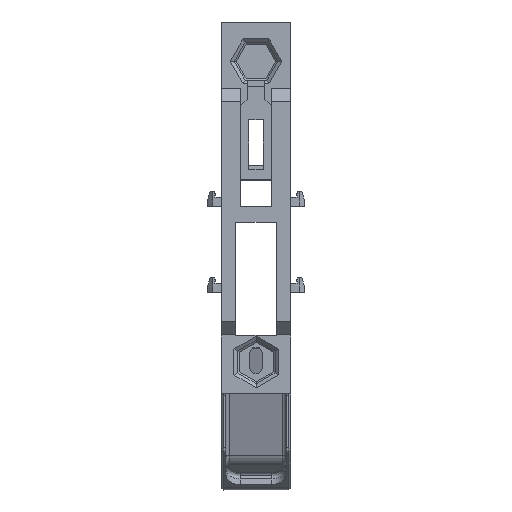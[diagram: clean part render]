
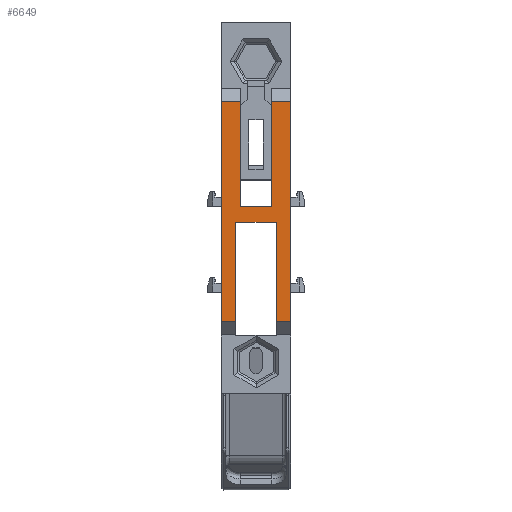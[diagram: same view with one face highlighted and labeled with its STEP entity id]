
A CAD part, top view. The second image highlights one B-rep face of the part: STEP entity #6649.
In plain terms, the highlighted planar face has unit normal (0, 0, 1).
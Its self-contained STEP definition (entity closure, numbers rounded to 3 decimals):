
#360=CARTESIAN_POINT('',(8.85,681.771,-13.196));
#361=VERTEX_POINT('',#360);
#368=CARTESIAN_POINT('',(8.85,741.341,-13.196));
#369=VERTEX_POINT('',#368);
#370=CARTESIAN_POINT('',(8.85,741.341,-13.196));
#371=DIRECTION('',(-0.,-1.,-0.));
#372=VECTOR('',#371,59.57);
#373=LINE('',#370,#372);
#374=EDGE_CURVE('',#369,#361,#373,.T.);
#617=CARTESIAN_POINT('',(-8.85,741.341,-13.196));
#618=VERTEX_POINT('',#617);
#625=CARTESIAN_POINT('',(-8.85,681.771,-13.196));
#626=VERTEX_POINT('',#625);
#627=CARTESIAN_POINT('',(-8.85,681.771,-13.196));
#628=DIRECTION('',(0.,1.,0.));
#629=VECTOR('',#628,59.57);
#630=LINE('',#627,#629);
#631=EDGE_CURVE('',#626,#618,#630,.T.);
#6536=CARTESIAN_POINT('',(19.6,741.341,-13.196));
#6537=VERTEX_POINT('',#6536);
#6538=CARTESIAN_POINT('',(19.6,741.341,-13.196));
#6539=DIRECTION('',(-1.,-0.,0.));
#6540=VECTOR('',#6539,10.75);
#6541=LINE('',#6538,#6540);
#6542=EDGE_CURVE('',#6537,#369,#6541,.T.);
#6559=CARTESIAN_POINT('',(-19.6,741.341,-13.196));
#6560=VERTEX_POINT('',#6559);
#6561=CARTESIAN_POINT('',(-8.85,741.341,-13.196));
#6562=DIRECTION('',(-1.,-0.,0.));
#6563=VECTOR('',#6562,10.75);
#6564=LINE('',#6561,#6563);
#6565=EDGE_CURVE('',#618,#6560,#6564,.T.);
#6578=CARTESIAN_POINT('',(17.,679.071,-13.196));
#6579=DIRECTION('',(0.,0.,1.));
#6580=DIRECTION('',(1.,0.,0.));
#6581=AXIS2_PLACEMENT_3D('',#6578,#6579,#6580);
#6582=PLANE('',#6581);
#6583=ORIENTED_EDGE('',*,*,#6542,.T.);
#6584=ORIENTED_EDGE('',*,*,#374,.T.);
#6585=CARTESIAN_POINT('',(8.85,681.771,-13.196));
#6586=DIRECTION('',(-1.,-0.,0.));
#6587=VECTOR('',#6586,17.7);
#6588=LINE('',#6585,#6587);
#6589=EDGE_CURVE('',#361,#626,#6588,.T.);
#6590=ORIENTED_EDGE('',*,*,#6589,.T.);
#6591=ORIENTED_EDGE('',*,*,#631,.T.);
#6592=ORIENTED_EDGE('',*,*,#6565,.T.);
#6593=CARTESIAN_POINT('',(-19.6,616.801,-13.196));
#6594=VERTEX_POINT('',#6593);
#6595=CARTESIAN_POINT('',(-19.6,616.801,-13.196));
#6596=DIRECTION('',(0.,1.,0.));
#6597=VECTOR('',#6596,124.54);
#6598=LINE('',#6595,#6597);
#6599=EDGE_CURVE('',#6594,#6560,#6598,.T.);
#6600=ORIENTED_EDGE('',*,*,#6599,.F.);
#6601=CARTESIAN_POINT('',(-11.5,616.801,-13.196));
#6602=VERTEX_POINT('',#6601);
#6603=CARTESIAN_POINT('',(-11.5,616.801,-13.196));
#6604=DIRECTION('',(-1.,-0.,0.));
#6605=VECTOR('',#6604,8.1);
#6606=LINE('',#6603,#6605);
#6607=EDGE_CURVE('',#6602,#6594,#6606,.T.);
#6608=ORIENTED_EDGE('',*,*,#6607,.F.);
#6609=CARTESIAN_POINT('',(-11.5,673.021,-13.196));
#6610=VERTEX_POINT('',#6609);
#6611=CARTESIAN_POINT('',(-11.5,673.021,-13.196));
#6612=DIRECTION('',(-0.,-1.,-0.));
#6613=VECTOR('',#6612,56.22);
#6614=LINE('',#6611,#6613);
#6615=EDGE_CURVE('',#6610,#6602,#6614,.T.);
#6616=ORIENTED_EDGE('',*,*,#6615,.F.);
#6617=CARTESIAN_POINT('',(11.5,673.021,-13.196));
#6618=VERTEX_POINT('',#6617);
#6619=CARTESIAN_POINT('',(-11.5,673.021,-13.196));
#6620=DIRECTION('',(1.,0.,-0.));
#6621=VECTOR('',#6620,23.);
#6622=LINE('',#6619,#6621);
#6623=EDGE_CURVE('',#6610,#6618,#6622,.T.);
#6624=ORIENTED_EDGE('',*,*,#6623,.T.);
#6625=CARTESIAN_POINT('',(11.5,616.801,-13.196));
#6626=VERTEX_POINT('',#6625);
#6627=CARTESIAN_POINT('',(11.5,616.801,-13.196));
#6628=DIRECTION('',(0.,1.,0.));
#6629=VECTOR('',#6628,56.22);
#6630=LINE('',#6627,#6629);
#6631=EDGE_CURVE('',#6626,#6618,#6630,.T.);
#6632=ORIENTED_EDGE('',*,*,#6631,.F.);
#6633=CARTESIAN_POINT('',(19.6,616.801,-13.196));
#6634=VERTEX_POINT('',#6633);
#6635=CARTESIAN_POINT('',(19.6,616.801,-13.196));
#6636=DIRECTION('',(-1.,-0.,0.));
#6637=VECTOR('',#6636,8.1);
#6638=LINE('',#6635,#6637);
#6639=EDGE_CURVE('',#6634,#6626,#6638,.T.);
#6640=ORIENTED_EDGE('',*,*,#6639,.F.);
#6641=CARTESIAN_POINT('',(19.6,616.801,-13.196));
#6642=DIRECTION('',(0.,1.,0.));
#6643=VECTOR('',#6642,124.54);
#6644=LINE('',#6641,#6643);
#6645=EDGE_CURVE('',#6634,#6537,#6644,.T.);
#6646=ORIENTED_EDGE('',*,*,#6645,.T.);
#6647=EDGE_LOOP('',(#6583,#6584,#6590,#6591,#6592,#6600,#6608,#6616,#6624,#6632,#6640,#6646));
#6648=FACE_BOUND('',#6647,.T.);
#6649=ADVANCED_FACE('',(#6648),#6582,.T.);
